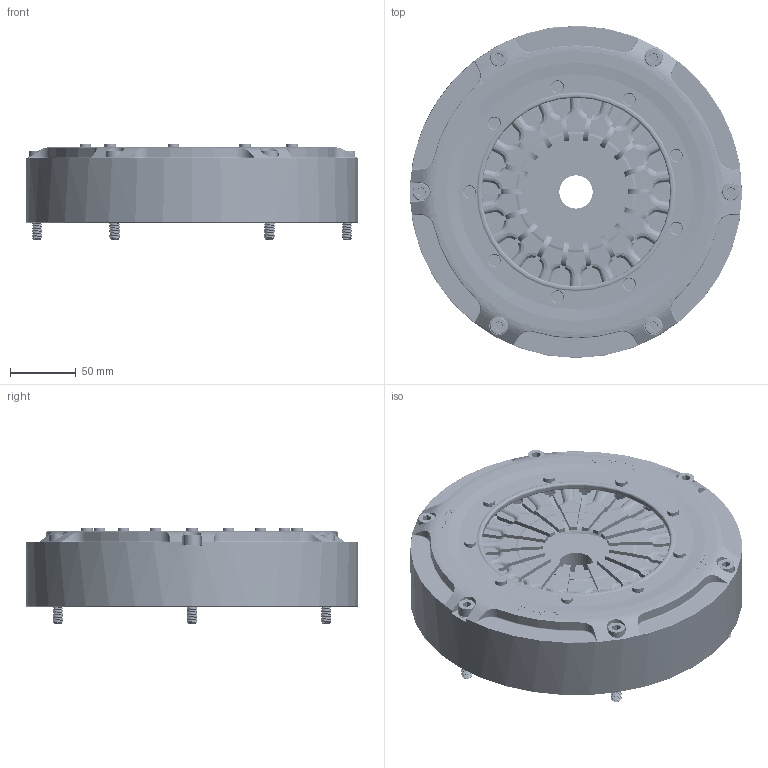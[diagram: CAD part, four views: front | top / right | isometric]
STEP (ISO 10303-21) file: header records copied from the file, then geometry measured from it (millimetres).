
FILE_DESCRIPTION(/* description */ ('Unknown'),/* implementation_level */ '2;1');
FILE_NAME(/* name */ '68-402',/* time_stamp */ '2022-03-28T07:33:34-07:00',/* author */ ('Unknown'),/* organization */ ('Unknown'),/* preprocessor_version */ 'ST-DEVELOPER v16.7',/* originating_system */ 'DEX',/* authorisation */ $);
FILE_SCHEMA (('AUTOMOTIVE_DESIGN {1 0 10303 214 3 1 1}'));
Length unit declared in the file: millimetre
Products named in the file (1): 68-402
Bounding box: 253 x 253 x 72.95 mm (x, y, z)
Volume: 2225303.8 mm3; surface area: 352703.7 mm2
Topology: 24 solids, 24 shells, 3629 faces, 10884 edges, 7374 vertices
Faces by surface type: plane 1281, cone 998, cylinder 617, bspline 501, torus 232
Full cylindrical faces by diameter (mm): 5.309 x9, 8 x132, 8.204 x6, 8.89 x18, 13 x6, 14.3 x5, 25.4 x1, 44.45 x2, 143.51 x1, 150.289 x1, 167.607 x1, 172.974 x1, 178.054 x1, 214.63 x1, 215.9 x1, 219.025 x1, 253 x1
Entity records: 182395 total; most frequent: CARTESIAN_POINT 91997, ORIENTED_EDGE 20782, DIRECTION 15434, EDGE_CURVE 10391, AXIS2_PLACEMENT_3D 7297, VERTEX_POINT 7149, B_SPLINE_CURVE_WITH_KNOTS 5251, FACE_BOUND 3750
